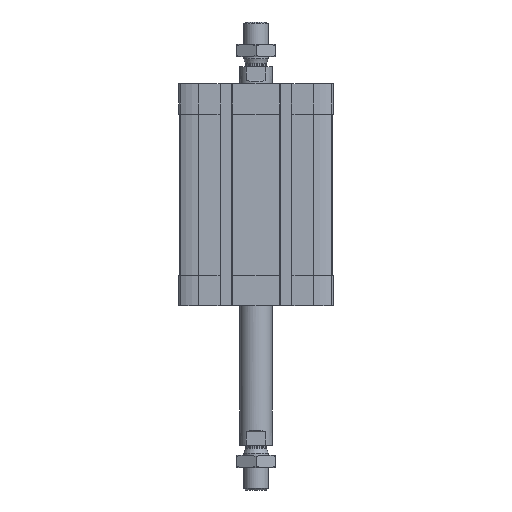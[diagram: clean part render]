
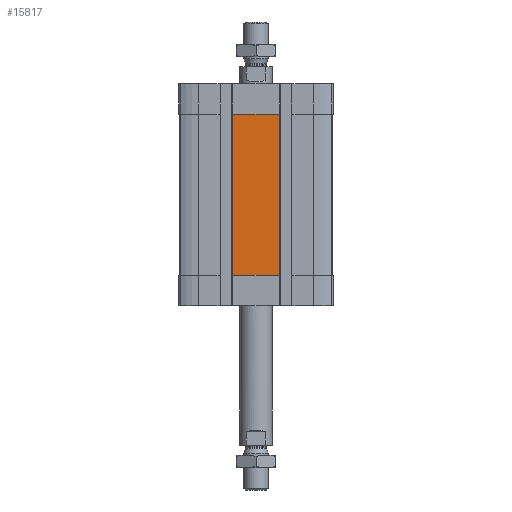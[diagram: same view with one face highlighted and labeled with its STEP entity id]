
A CAD part, front view. The second image highlights one B-rep face of the part: STEP entity #15817.
In plain terms, the highlighted planar face has unit normal (0, -1, 0).
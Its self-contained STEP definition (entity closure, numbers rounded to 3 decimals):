
#90 = DIRECTION ( 'NONE',  ( 0., 0., -1. ) ) ;
#673 = CARTESIAN_POINT ( 'NONE',  ( -11.4, -37.5, -15. ) ) ;
#3079 = ORIENTED_EDGE ( 'NONE', *, *, #4045, .F. ) ;
#4045 = EDGE_CURVE ( 'NONE', #6110, #7533, #6038, .T. ) ;
#4092 = CARTESIAN_POINT ( 'NONE',  ( 11.4, -37.5, -94. ) ) ;
#4446 = CARTESIAN_POINT ( 'NONE',  ( 11.4, -37.5, -15. ) ) ;
#6038 = LINE ( 'NONE', #8896, #7903 ) ;
#6110 = VERTEX_POINT ( 'NONE', #10081 ) ;
#6209 = LINE ( 'NONE', #14208, #14743 ) ;
#6306 = DIRECTION ( 'NONE',  ( 0., -1., 0. ) ) ;
#6401 = EDGE_CURVE ( 'NONE', #7533, #8129, #15290, .T. ) ;
#6610 = LINE ( 'NONE', #4092, #8316 ) ;
#6834 = ORIENTED_EDGE ( 'NONE', *, *, #15941, .T. ) ;
#7378 = ORIENTED_EDGE ( 'NONE', *, *, #6401, .F. ) ;
#7533 = VERTEX_POINT ( 'NONE', #13174 ) ;
#7851 = EDGE_CURVE ( 'NONE', #6110, #13524, #6209, .T. ) ;
#7903 = VECTOR ( 'NONE', #9941, 1000. ) ;
#8129 = VERTEX_POINT ( 'NONE', #4446 ) ;
#8316 = VECTOR ( 'NONE', #17226, 1000. ) ;
#8896 = CARTESIAN_POINT ( 'NONE',  ( -11.4, -37.5, -94. ) ) ;
#8912 = FACE_OUTER_BOUND ( 'NONE', #13607, .T. ) ;
#8977 = DIRECTION ( 'NONE',  ( 1., 0., 0. ) ) ;
#9941 = DIRECTION ( 'NONE',  ( 0., 0., 1. ) ) ;
#10081 = CARTESIAN_POINT ( 'NONE',  ( -11.4, -37.5, -94. ) ) ;
#12484 = ORIENTED_EDGE ( 'NONE', *, *, #7851, .T. ) ;
#12767 = AXIS2_PLACEMENT_3D ( 'NONE', #12925, #6306, #90 ) ;
#12925 = CARTESIAN_POINT ( 'NONE',  ( -11.4, -37.5, -94. ) ) ;
#13174 = CARTESIAN_POINT ( 'NONE',  ( -11.4, -37.5, -15. ) ) ;
#13524 = VERTEX_POINT ( 'NONE', #16481 ) ;
#13607 = EDGE_LOOP ( 'NONE', ( #7378, #3079, #12484, #6834 ) ) ;
#14208 = CARTESIAN_POINT ( 'NONE',  ( -11.4, -37.5, -94. ) ) ;
#14227 = PLANE ( 'NONE',  #12767 ) ;
#14743 = VECTOR ( 'NONE', #8977, 1000. ) ;
#15290 = LINE ( 'NONE', #673, #17208 ) ;
#15817 = ADVANCED_FACE ( 'NONE', ( #8912 ), #14227, .T. ) ;
#15941 = EDGE_CURVE ( 'NONE', #13524, #8129, #6610, .T. ) ;
#16481 = CARTESIAN_POINT ( 'NONE',  ( 11.4, -37.5, -94. ) ) ;
#16773 = DIRECTION ( 'NONE',  ( 1., 0., 0. ) ) ;
#17208 = VECTOR ( 'NONE', #16773, 1000. ) ;
#17226 = DIRECTION ( 'NONE',  ( 0., 0., 1. ) ) ;
